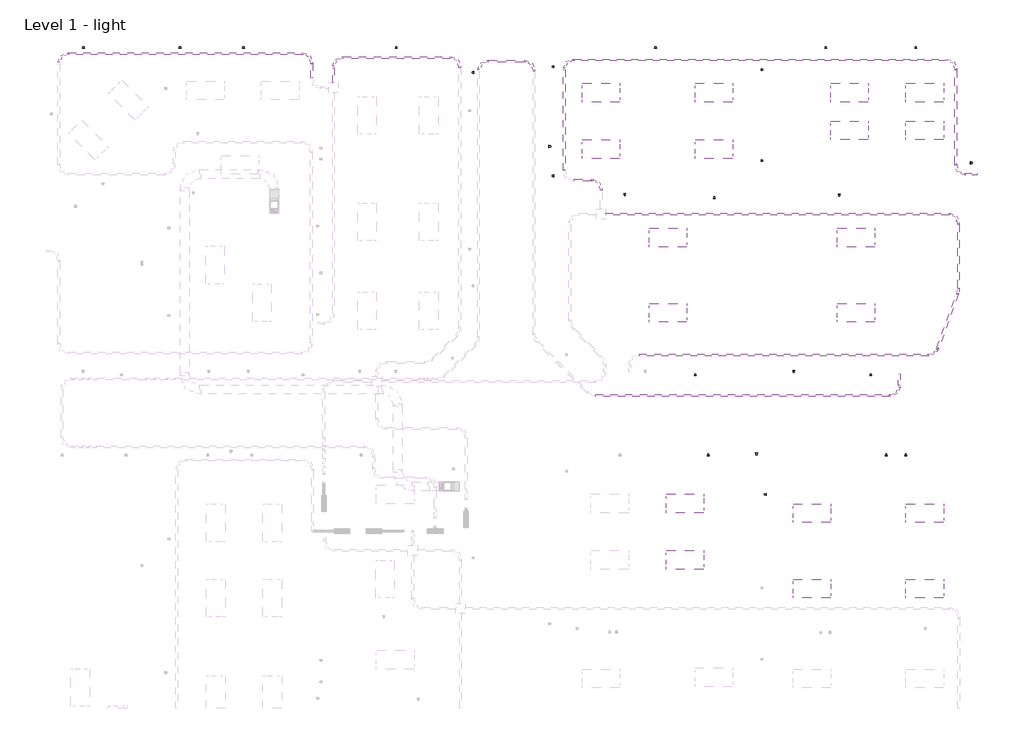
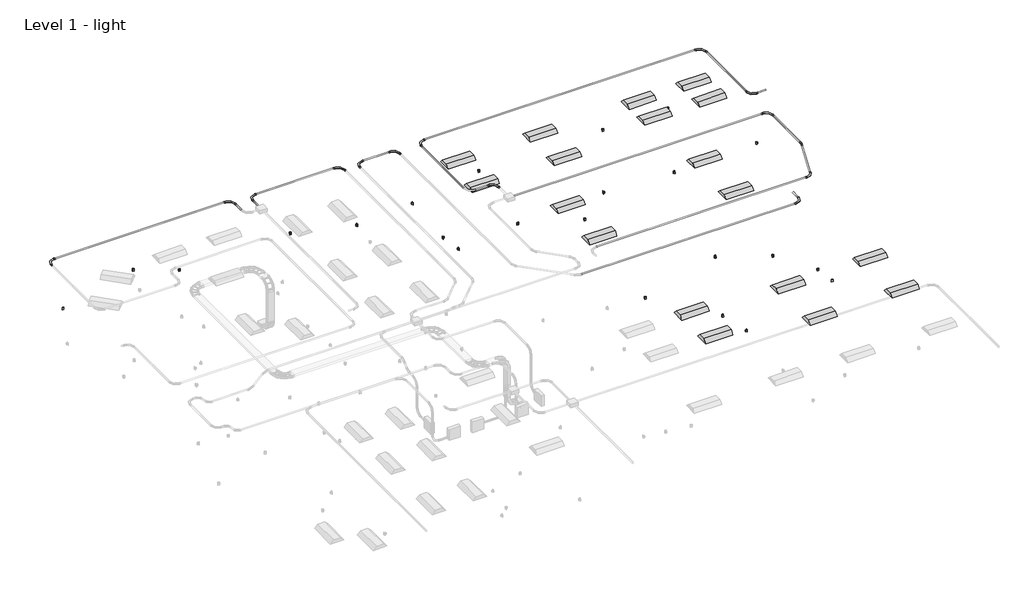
# One storey, part 5 of 5: 19 proxies, 18 light fixtures, 16 cable carrier segments, 14 cable carrier fittings, 6 switching devices.
"""IFC4 building model written with IfcOpenShell, lengths in millimetres."""

from ifc_helpers import new_model, si_unit, point, frame, frame_2d, origin, place, context, project, spatial, circle_curve, trimmed, segment, composite_curve, outline, extrude, transform, mapped, element, save
from components import m_duplex_receptacle_standard_10251bba, m_conduit_elbow_without_fittings_rnc_standard_89ecd00f, m_conduit_elbow_without_fittings_rnc_standard_5fbefaed, m_conduit_elbow_without_fittings_rnc_standard_47757ada, m_plain_recessed_lighting_fixture_c7d3eefa

model = new_model("IFC4")

# Units and contexts
model_context = context("Model", 3, world=origin())
ifc_project = project(units=[si_unit("LENGTHUNIT", "METRE", prefix="MILLI")], contexts=[model_context])

# Site, building, storey
site = spatial("IfcSite", under=ifc_project)
building = spatial("IfcBuilding", under=site)
storey = spatial("IfcBuildingStorey", under=building, Name="Level 1 - light", Elevation=0.0)

# Proxies
placement = place(None, origin())
m_duplex_receptacle_standard_shape = m_duplex_receptacle_standard_10251bba(model_context)
element("IfcBuildingElementProxy", 1, Name="M_Duplex Receptacle : Standard", ObjectType="M_Duplex Receptacle : Standard", at=placement, inside=storey, context=model_context, shape_type="MappedRepresentation", body=[
    mapped(m_duplex_receptacle_standard_shape, transform((-18883.4484689, 17268.6737109, 460.0), x_axis=(1.0, 0.0, 0.0), y_axis=(0.0, 0.0, 1.0), z_axis=(0.0, -1.0, 0.0))),
])
element("IfcBuildingElementProxy", 2, Name="M_Duplex Receptacle : Standard", ObjectType="M_Duplex Receptacle : Standard", at=placement, inside=storey, context=model_context, shape_type="MappedRepresentation", body=[
    mapped(m_duplex_receptacle_standard_shape, transform((-13697.9730488, 17268.6737109, 460.0), x_axis=(1.0, 0.0, 0.0), y_axis=(0.0, 0.0, 1.0), z_axis=(0.0, -1.0, 0.0))),
])
element("IfcBuildingElementProxy", 3, Name="M_Duplex Receptacle : Standard", ObjectType="M_Duplex Receptacle : Standard", at=placement, inside=storey, context=model_context, shape_type="MappedRepresentation", body=[
    mapped(m_duplex_receptacle_standard_shape, transform((-8747.9514996, 17268.6737109, 460.0), x_axis=(1.0, 0.0, 0.0), y_axis=(0.0, 0.0, 1.0), z_axis=(0.0, -1.0, 0.0))),
])
element("IfcBuildingElementProxy", 4, Name="M_Duplex Receptacle : Standard", ObjectType="M_Duplex Receptacle : Standard", at=placement, inside=storey, context=model_context, shape_type="MappedRepresentation", body=[
    mapped(m_duplex_receptacle_standard_shape, transform((-3642.762755, 16663.2148423, 460.0), x_axis=(0.0, 1.0, 0.0), y_axis=(0.0, 0.0, 1.0), z_axis=(1.0, 0.0, 0.0))),
])
element("IfcBuildingElementProxy", 5, Name="M_Duplex Receptacle : Standard", ObjectType="M_Duplex Receptacle : Standard", at=placement, inside=storey, context=model_context, shape_type="MappedRepresentation", body=[
    mapped(m_duplex_receptacle_standard_shape, transform((-3642.762755, 13128.6630075, 460.0), x_axis=(0.0, 1.0, 0.0), y_axis=(0.0, 0.0, 1.0), z_axis=(1.0, 0.0, 0.0))),
])
element("IfcBuildingElementProxy", 6, Name="M_Duplex Receptacle : Standard", ObjectType="M_Duplex Receptacle : Standard", at=placement, inside=storey, context=model_context, shape_type="MappedRepresentation", body=[
    mapped(m_duplex_receptacle_standard_shape, transform((3085.062245, 16565.4839381, 460.0), x_axis=(0.0, -1.0, 0.0), y_axis=(0.0, 0.0, 1.0), z_axis=(-1.0, 0.0, 0.0))),
])
element("IfcBuildingElementProxy", 7, Name="M_Duplex Receptacle : Standard", ObjectType="M_Duplex Receptacle : Standard", at=placement, inside=storey, context=model_context, shape_type="MappedRepresentation", body=[
    mapped(m_duplex_receptacle_standard_shape, transform((3085.062245, 13623.5652215, 460.0), x_axis=(0.0, -1.0, 0.0), y_axis=(0.0, 0.0, 1.0), z_axis=(-1.0, 0.0, 0.0))),
])
element("IfcBuildingElementProxy", 8, Name="M_Duplex Receptacle : Standard", ObjectType="M_Duplex Receptacle : Standard", at=placement, inside=storey, context=model_context, shape_type="MappedRepresentation", body=[
    mapped(m_duplex_receptacle_standard_shape, transform((-341.6544402, 17268.6737109, 460.0), x_axis=(1.0, 0.0, 0.0), y_axis=(0.0, 0.0, 1.0), z_axis=(0.0, -1.0, 0.0))),
])
element("IfcBuildingElementProxy", 9, Name="M_Duplex Receptacle : Standard", ObjectType="M_Duplex Receptacle : Standard", at=placement, inside=storey, context=model_context, shape_type="MappedRepresentation", body=[
    mapped(m_duplex_receptacle_standard_shape, transform((1557.1056988, 12391.8737109, 460.0), x_axis=(1.0, 0.0, 0.0), y_axis=(0.0, 0.0, 1.0), z_axis=(0.0, -1.0, 0.0))),
])
element("IfcBuildingElementProxy", 10, Name="M_Duplex Receptacle : Standard", ObjectType="M_Duplex Receptacle : Standard", at=placement, inside=storey, context=model_context, shape_type="MappedRepresentation", body=[
    mapped(m_duplex_receptacle_standard_shape, transform((9870.037245, 13546.3517893, 460.0), x_axis=(0.0, -1.0, 0.0), y_axis=(0.0, 0.0, 1.0), z_axis=(-1.0, 0.0, 0.0))),
])
element("IfcBuildingElementProxy", 11, Name="M_Duplex Receptacle : Standard", ObjectType="M_Duplex Receptacle : Standard", at=placement, inside=storey, context=model_context, shape_type="MappedRepresentation", body=[
    mapped(m_duplex_receptacle_standard_shape, transform((5177.5437232, 17268.6737109, 460.0), x_axis=(1.0, 0.0, 0.0), y_axis=(0.0, 0.0, 1.0), z_axis=(0.0, -1.0, 0.0))),
])
element("IfcBuildingElementProxy", 12, Name="M_Duplex Receptacle : Standard", ObjectType="M_Duplex Receptacle : Standard", at=placement, inside=storey, context=model_context, shape_type="MappedRepresentation", body=[
    mapped(m_duplex_receptacle_standard_shape, transform((8088.1217514, 17268.6737109, 460.0), x_axis=(1.0, 0.0, 0.0), y_axis=(0.0, 0.0, 1.0), z_axis=(0.0, -1.0, 0.0))),
])
element("IfcBuildingElementProxy", 13, Name="M_Duplex Receptacle : Standard", ObjectType="M_Duplex Receptacle : Standard", at=placement, inside=storey, context=model_context, shape_type="MappedRepresentation", body=[
    mapped(m_duplex_receptacle_standard_shape, transform((941.5579116, 6648.2987109, 460.0), x_axis=(1.0, 0.0, 0.0), y_axis=(0.0, 0.0, 1.0), z_axis=(0.0, -1.0, 0.0))),
])
element("IfcBuildingElementProxy", 14, Name="M_Duplex Receptacle : Standard", ObjectType="M_Duplex Receptacle : Standard", at=placement, inside=storey, context=model_context, shape_type="MappedRepresentation", body=[
    mapped(m_duplex_receptacle_standard_shape, transform((6632.9333726, 6648.2987109, 460.0), x_axis=(1.0, 0.0, 0.0), y_axis=(0.0, 0.0, 1.0), z_axis=(0.0, -1.0, 0.0))),
])
element("IfcBuildingElementProxy", 15, Name="M_Duplex Receptacle : Standard", ObjectType="M_Duplex Receptacle : Standard", at=placement, inside=storey, context=model_context, shape_type="MappedRepresentation", body=[
    mapped(m_duplex_receptacle_standard_shape, transform((2933.539323, 4132.1112109, 460.0), x_axis=(-1.0, 0.0, 0.0), y_axis=(0.0, 0.0, 1.0), z_axis=(0.0, 1.0, 0.0))),
])
element("IfcBuildingElementProxy", 16, Name="M_Duplex Receptacle : Standard", ObjectType="M_Duplex Receptacle : Standard", at=placement, inside=storey, context=model_context, shape_type="MappedRepresentation", body=[
    mapped(m_duplex_receptacle_standard_shape, transform((-3798.337755, 14084.2554795, 460.0), x_axis=(0.0, -1.0, 0.0), y_axis=(0.0, 0.0, 1.0), z_axis=(-1.0, 0.0, 0.0))),
])
element("IfcBuildingElementProxy", 17, Name="M_Duplex Receptacle : Standard", ObjectType="M_Duplex Receptacle : Standard", at=placement, inside=storey, context=model_context, shape_type="MappedRepresentation", body=[
    mapped(m_duplex_receptacle_standard_shape, transform((-6236.737755, 16481.9915283, 460.0), x_axis=(0.0, 1.0, 0.0), y_axis=(0.0, 0.0, 1.0), z_axis=(1.0, 0.0, 0.0))),
])
element("IfcBuildingElementProxy", 18, Name="M_Duplex Receptacle : Standard", ObjectType="M_Duplex Receptacle : Standard", at=placement, inside=storey, context=model_context, shape_type="MappedRepresentation", body=[
    mapped(m_duplex_receptacle_standard_shape, transform((7770.7478687, 4054.3237109, 460.0), x_axis=(1.0, 0.0, 0.0), y_axis=(0.0, 0.0, 1.0), z_axis=(0.0, -1.0, 0.0))),
])
element("IfcBuildingElementProxy", 19, Name="M_Duplex Receptacle : Standard", ObjectType="M_Duplex Receptacle : Standard", at=placement, inside=storey, context=model_context, shape_type="MappedRepresentation", body=[
    mapped(m_duplex_receptacle_standard_shape, transform((3240.637245, 2794.938039, 460.0), x_axis=(0.0, 1.0, 0.0), y_axis=(0.0, 0.0, 1.0), z_axis=(1.0, 0.0, 0.0))),
])

# Cable carrier fittings
m_conduit_elbow_without_fittings_rnc_standard_shape = m_conduit_elbow_without_fittings_rnc_standard_89ecd00f(model_context)
element("IfcCableCarrierFitting", 20, ObjectType="M_Conduit Elbow - without Fittings - RNC : Standard", at=placement, inside=storey, context=model_context, shape_type="MappedRepresentation", body=[
    mapped(m_conduit_elbow_without_fittings_rnc_standard_shape, transform((-6682.4372396, 16957.7027917, 3100.0), x_axis=(0.0, 1.0, 0.0), y_axis=(-1.0, 0.0, 0.0), z_axis=(0.0, 0.0, 1.0))),
])
element("IfcCableCarrierFitting", 21, ObjectType="M_Conduit Elbow - without Fittings - RNC : Standard", at=placement, inside=storey, context=model_context, shape_type="MappedRepresentation", body=[
    mapped(m_conduit_elbow_without_fittings_rnc_standard_shape, transform((-10782.4372396, 16957.7027917, 3100.0), x_axis=(-1.0, 0.0, 0.0), y_axis=(0.0, -1.0, 0.0), z_axis=(0.0, 0.0, 1.0))),
])
element("IfcCableCarrierFitting", 22, ObjectType="M_Conduit Elbow - without Fittings - RNC : Standard", at=placement, inside=storey, context=model_context, shape_type="MappedRepresentation", body=[
    mapped(m_conduit_elbow_without_fittings_rnc_standard_shape, transform((9477.3291501, 11884.7825021, 3100.0), x_axis=(0.0, 1.0, 0.0), y_axis=(-1.0, 0.0, 0.0), z_axis=(0.0, 0.0, 1.0))),
])
element("IfcCableCarrierFitting", 23, ObjectType="M_Conduit Elbow - without Fittings - RNC : Standard", at=placement, inside=storey, context=model_context, shape_type="MappedRepresentation", body=[
    mapped(m_conduit_elbow_without_fittings_rnc_standard_shape, transform((-2106.5826874, 12984.7825021, 3100.0), x_axis=(0.0, 1.0, 0.0), y_axis=(-1.0, 0.0, 0.0), z_axis=(0.0, 0.0, 1.0))),
])
element("IfcCableCarrierFitting", 24, ObjectType="M_Conduit Elbow - without Fittings - RNC : Standard", at=placement, inside=storey, context=model_context, shape_type="MappedRepresentation", body=[
    mapped(m_conduit_elbow_without_fittings_rnc_standard_shape, transform((-3306.5826874, 16884.7825021, 3100.0), x_axis=(-1.0, 0.0, 0.0), y_axis=(0.0, -1.0, 0.0), z_axis=(0.0, 0.0, 1.0))),
])
element("IfcCableCarrierFitting", 25, ObjectType="M_Conduit Elbow - without Fittings - RNC : Standard", at=placement, inside=storey, context=model_context, shape_type="MappedRepresentation", body=[
    mapped(m_conduit_elbow_without_fittings_rnc_standard_shape, transform((9393.4173126, 16884.7825021, 3100.0), x_axis=(0.0, 1.0, 0.0), y_axis=(-1.0, 0.0, 0.0), z_axis=(0.0, 0.0, 1.0))),
])
element("IfcCableCarrierFitting", 26, ObjectType="M_Conduit Elbow - without Fittings - RNC : Standard", at=placement, inside=storey, context=model_context, shape_type="MappedRepresentation", body=[
    mapped(m_conduit_elbow_without_fittings_rnc_standard_shape, transform((9393.4173126, 13184.7825021, 3100.0), x_axis=(0.0, -1.0, 0.0), y_axis=(1.0, 0.0, 0.0), z_axis=(0.0, 0.0, 1.0))),
])
element("IfcCableCarrierFitting", 27, ObjectType="M_Conduit Elbow - without Fittings - RNC : Standard", at=placement, inside=storey, context=model_context, shape_type="MappedRepresentation", body=[
    mapped(m_conduit_elbow_without_fittings_rnc_standard_shape, transform((-11482.4372396, 17083.2800092, 3100.0), x_axis=(0.0, 1.0, 0.0), y_axis=(-1.0, 0.0, 0.0), z_axis=(0.0, 0.0, 1.0))),
])
element("IfcCableCarrierFitting", 28, ObjectType="M_Conduit Elbow - without Fittings - RNC : Standard", at=placement, inside=storey, context=model_context, shape_type="MappedRepresentation", body=[
    mapped(m_conduit_elbow_without_fittings_rnc_standard_shape, transform((-19682.4372396, 17083.2800092, 3100.0), x_axis=(-1.0, 0.0, 0.0), y_axis=(0.0, -1.0, 0.0), z_axis=(0.0, 0.0, 1.0))),
])
element("IfcCableCarrierFitting", 29, ObjectType="M_Conduit Elbow - without Fittings - RNC : Standard", at=placement, inside=storey, context=model_context, shape_type="MappedRepresentation", body=[
    mapped(m_conduit_elbow_without_fittings_rnc_standard_shape, transform((-6079.718472, 16840.1344224, 3100.0), x_axis=(-1.0, 0.0, 0.0), y_axis=(0.0, -1.0, 0.0), z_axis=(0.0, 0.0, 1.0))),
])
element("IfcCableCarrierFitting", 30, ObjectType="M_Conduit Elbow - without Fittings - RNC : Standard", at=placement, inside=storey, context=model_context, shape_type="MappedRepresentation", body=[
    mapped(m_conduit_elbow_without_fittings_rnc_standard_shape, transform((-4279.718472, 16840.1344224, 3100.0), x_axis=(0.0, 1.0, 0.0), y_axis=(-1.0, 0.0, 0.0), z_axis=(0.0, 0.0, 1.0))),
])
element("IfcCableCarrierFitting", 31, ObjectType="M_Conduit Elbow - without Fittings - RNC : Standard", at=placement, inside=storey, context=model_context, shape_type="MappedRepresentation", body=[
    mapped(m_conduit_elbow_without_fittings_rnc_standard_shape, transform((7558.7591591, 6001.6567913, 3100.0), x_axis=(1.0, 0.0, 0.0), y_axis=(0.0, 1.0, 0.0), z_axis=(0.0, 0.0, 1.0))),
])
m_conduit_elbow_without_fittings_rnc_standard_2_shape = m_conduit_elbow_without_fittings_rnc_standard_5fbefaed(model_context)
element("IfcCableCarrierFitting", 32, ObjectType="M_Conduit Elbow - without Fittings - RNC : Standard", at=placement, inside=storey, context=model_context, shape_type="MappedRepresentation", body=[
    mapped(m_conduit_elbow_without_fittings_rnc_standard_2_shape, transform((9477.3291501, 9384.7825021, 3100.0), x_axis=(0.34202014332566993, 0.939692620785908, 0.0), y_axis=(-0.939692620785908, 0.34202014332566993, 0.0), z_axis=(0.0, 0.0, 1.0))),
])
m_conduit_elbow_without_fittings_rnc_standard_3_shape = m_conduit_elbow_without_fittings_rnc_standard_47757ada(model_context)
element("IfcCableCarrierFitting", 33, ObjectType="M_Conduit Elbow - without Fittings - RNC : Standard", at=placement, inside=storey, context=model_context, shape_type="MappedRepresentation", body=[
    mapped(m_conduit_elbow_without_fittings_rnc_standard_3_shape, transform((8724.8848348, 7317.4587363, 3100.0), x_axis=(1.0, 0.0, 0.0), y_axis=(0.0, 1.0, 0.0), z_axis=(0.0, 0.0, 1.0))),
])

# Cable carrier segments
element("IfcCableCarrierSegment", 34, ObjectType="Rigid Nonmetallic Conduit (RNC Sch 40)", at=placement, inside=storey, context=model_context, shape_type="SweptSolid", body=[
    extrude(outline(composite_curve([segment(trimmed(circle_curve(frame_2d((16957.7027917, 3100.0)), 30.165), [point((16987.8677917, 3100.0))], [point((16957.7027917, 3069.835))], False, "CARTESIAN"), True, "CONTINUOUS"), segment(trimmed(circle_curve(frame_2d((16957.7027917, 3100.0)), 30.165), [point((16957.7027917, 3069.835))], [point((16927.5377917, 3100.0))], False, "CARTESIAN"), True, "CONTINUOUS"), segment(trimmed(circle_curve(frame_2d((16957.7027917, 3100.0)), 30.165), [point((16927.5377917, 3100.0))], [point((16957.7027917, 3130.165))], False, "CARTESIAN"), True, "CONTINUOUS"), segment(trimmed(circle_curve(frame_2d((16957.7027917, 3100.0)), 30.165), [point((16957.7027917, 3130.165))], [point((16987.8677917, 3100.0))], False, "CARTESIAN"), True, "CONTINUOUS")], self_intersect=False)), frame((-10460.1772396, 0.0, 0.0), z_axis=(1.0, 0.0, 0.0), x_axis=(0.0, 1.0, 0.0)), (0.0, 0.0, 1.0), 3455.48),
])
element("IfcCableCarrierSegment", 35, ObjectType="Rigid Nonmetallic Conduit (RNC Sch 40)", at=placement, inside=storey, context=model_context, shape_type="SweptSolid", body=[
    extrude(outline(composite_curve([segment(trimmed(circle_curve(frame_2d((3100.0, 9477.3291501)), 30.165), [point((3100.0, 9447.1641501))], [point((3069.835, 9477.3291501))], False, "CARTESIAN"), True, "CONTINUOUS"), segment(trimmed(circle_curve(frame_2d((3100.0, 9477.3291501)), 30.165), [point((3069.835, 9477.3291501))], [point((3100.0, 9507.4941501))], False, "CARTESIAN"), True, "CONTINUOUS"), segment(trimmed(circle_curve(frame_2d((3100.0, 9477.3291501)), 30.165), [point((3100.0, 9507.4941501))], [point((3130.165, 9477.3291501))], False, "CARTESIAN"), True, "CONTINUOUS"), segment(trimmed(circle_curve(frame_2d((3100.0, 9477.3291501)), 30.165), [point((3130.165, 9477.3291501))], [point((3100.0, 9447.1641501))], False, "CARTESIAN"), True, "CONTINUOUS")], self_intersect=False)), frame((0.0, 9483.4482242, 0.0), z_axis=(0.0, 1.0, 0.0), x_axis=(0.0, 0.0, 1.0)), (0.0, 0.0, 1.0), 2079.0742778),
])
element("IfcCableCarrierSegment", 36, ObjectType="Rigid Nonmetallic Conduit (RNC Sch 40)", at=placement, inside=storey, context=model_context, shape_type="SweptSolid", body=[
    extrude(outline(composite_curve([segment(trimmed(circle_curve(frame_2d((0.0, -30.165)), 30.165), [point((-30.165, -30.165))], [point((0.0, 0.0))], False, "CARTESIAN"), True, "CONTINUOUS"), segment(trimmed(circle_curve(frame_2d((0.0, -30.165)), 30.165), [point((0.0, 0.0))], [point((30.165, -30.165))], False, "CARTESIAN"), True, "CONTINUOUS"), segment(trimmed(circle_curve(frame_2d((0.0, -30.165)), 30.165), [point((30.165, -30.165))], [point((0.0, -60.33))], False, "CARTESIAN"), True, "CONTINUOUS"), segment(trimmed(circle_curve(frame_2d((0.0, -30.165)), 30.165), [point((0.0, -60.33))], [point((-30.165, -30.165))], False, "CARTESIAN"), True, "CONTINUOUS")], self_intersect=False)), frame((8807.2700786, 7543.8103334, 3069.835), z_axis=(0.3420201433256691, 0.9396926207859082, 0.0), x_axis=(0.9396926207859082, -0.3420201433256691, 0.0)), (0.0, 0.0, 1.0), 1860.4559395),
])
element("IfcCableCarrierSegment", 37, ObjectType="Rigid Nonmetallic Conduit (RNC Sch 40)", at=placement, inside=storey, context=model_context, shape_type="SweptSolid", body=[
    extrude(outline(composite_curve([segment(trimmed(circle_curve(frame_2d((7317.4587363, 3100.0)), 30.165), [point((7347.6237363, 3100.0))], [point((7317.4587363, 3069.835))], False, "CARTESIAN"), True, "CONTINUOUS"), segment(trimmed(circle_curve(frame_2d((7317.4587363, 3100.0)), 30.165), [point((7317.4587363, 3069.835))], [point((7287.2937363, 3100.0))], False, "CARTESIAN"), True, "CONTINUOUS"), segment(trimmed(circle_curve(frame_2d((7317.4587363, 3100.0)), 30.165), [point((7287.2937363, 3100.0))], [point((7317.4587363, 3130.165))], False, "CARTESIAN"), True, "CONTINUOUS"), segment(trimmed(circle_curve(frame_2d((7317.4587363, 3100.0)), 30.165), [point((7317.4587363, 3130.165))], [point((7347.6237363, 3100.0))], False, "CARTESIAN"), True, "CONTINUOUS")], self_intersect=False)), frame((-852.8551652, 0.0, 0.0), z_axis=(1.0, 0.0, 0.0), x_axis=(0.0, 1.0, 0.0)), (0.0, 0.0, 1.0), 9336.8616617),
])
element("IfcCableCarrierSegment", 38, ObjectType="Rigid Nonmetallic Conduit (RNC Sch 40)", at=placement, inside=storey, context=model_context, shape_type="SweptSolid", body=[
    extrude(outline(composite_curve([segment(trimmed(circle_curve(frame_2d((11884.7825021, 3100.0)), 30.165), [point((11914.9475021, 3100.0))], [point((11884.7825021, 3069.835))], False, "CARTESIAN"), True, "CONTINUOUS"), segment(trimmed(circle_curve(frame_2d((11884.7825021, 3100.0)), 30.165), [point((11884.7825021, 3069.835))], [point((11854.6175021, 3100.0))], False, "CARTESIAN"), True, "CONTINUOUS"), segment(trimmed(circle_curve(frame_2d((11884.7825021, 3100.0)), 30.165), [point((11854.6175021, 3100.0))], [point((11884.7825021, 3130.165))], False, "CARTESIAN"), True, "CONTINUOUS"), segment(trimmed(circle_curve(frame_2d((11884.7825021, 3100.0)), 30.165), [point((11884.7825021, 3130.165))], [point((11914.9475021, 3100.0))], False, "CARTESIAN"), True, "CONTINUOUS")], self_intersect=False)), frame((-1947.5826874, 0.0, 0.0), z_axis=(1.0, 0.0, 0.0), x_axis=(0.0, 1.0, 0.0)), (0.0, 0.0, 1.0), 11102.6518375),
])
element("IfcCableCarrierSegment", 39, ObjectType="Rigid Nonmetallic Conduit (RNC Sch 40)", at=placement, inside=storey, context=model_context, shape_type="SweptSolid", body=[
    extrude(outline(composite_curve([segment(trimmed(circle_curve(frame_2d((12984.7825021, 3100.0)), 30.165), [point((13014.9475021, 3100.0))], [point((12984.7825021, 3069.835))], False, "CARTESIAN"), True, "CONTINUOUS"), segment(trimmed(circle_curve(frame_2d((12984.7825021, 3100.0)), 30.165), [point((12984.7825021, 3069.835))], [point((12954.6175021, 3100.0))], False, "CARTESIAN"), True, "CONTINUOUS"), segment(trimmed(circle_curve(frame_2d((12984.7825021, 3100.0)), 30.165), [point((12954.6175021, 3100.0))], [point((12984.7825021, 3130.165))], False, "CARTESIAN"), True, "CONTINUOUS"), segment(trimmed(circle_curve(frame_2d((12984.7825021, 3100.0)), 30.165), [point((12984.7825021, 3130.165))], [point((13014.9475021, 3100.0))], False, "CARTESIAN"), True, "CONTINUOUS")], self_intersect=False)), frame((-2984.3226874, 0.0, 0.0), z_axis=(1.0, 0.0, 0.0), x_axis=(0.0, 1.0, 0.0)), (0.0, 0.0, 1.0), 555.48),
])
element("IfcCableCarrierSegment", 40, ObjectType="Rigid Nonmetallic Conduit (RNC Sch 40)", at=placement, inside=storey, context=model_context, shape_type="SweptSolid", body=[
    extrude(outline(composite_curve([segment(trimmed(circle_curve(frame_2d((3100.0, -3306.5826874)), 30.165), [point((3100.0, -3276.4176874))], [point((3130.165, -3306.5826874))], False, "CARTESIAN"), True, "CONTINUOUS"), segment(trimmed(circle_curve(frame_2d((3100.0, -3306.5826874)), 30.165), [point((3130.165, -3306.5826874))], [point((3100.0, -3336.7476874))], False, "CARTESIAN"), True, "CONTINUOUS"), segment(trimmed(circle_curve(frame_2d((3100.0, -3306.5826874)), 30.165), [point((3100.0, -3336.7476874))], [point((3069.835, -3306.5826874))], False, "CARTESIAN"), True, "CONTINUOUS"), segment(trimmed(circle_curve(frame_2d((3100.0, -3306.5826874)), 30.165), [point((3069.835, -3306.5826874))], [point((3100.0, -3276.4176874))], False, "CARTESIAN"), True, "CONTINUOUS")], self_intersect=False)), frame((0.0, 13307.0425021, 0.0), z_axis=(0.0, 1.0, 0.0), x_axis=(0.0, 0.0, 1.0)), (0.0, 0.0, 1.0), 3255.48),
])
element("IfcCableCarrierSegment", 41, ObjectType="Rigid Nonmetallic Conduit (RNC Sch 40)", at=placement, inside=storey, context=model_context, shape_type="SweptSolid", body=[
    extrude(outline(composite_curve([segment(trimmed(circle_curve(frame_2d((16884.7825021, 3100.0)), 30.165), [point((16854.6175021, 3100.0))], [point((16884.7825021, 3130.165))], False, "CARTESIAN"), True, "CONTINUOUS"), segment(trimmed(circle_curve(frame_2d((16884.7825021, 3100.0)), 30.165), [point((16884.7825021, 3130.165))], [point((16914.9475021, 3100.0))], False, "CARTESIAN"), True, "CONTINUOUS"), segment(trimmed(circle_curve(frame_2d((16884.7825021, 3100.0)), 30.165), [point((16914.9475021, 3100.0))], [point((16884.7825021, 3069.835))], False, "CARTESIAN"), True, "CONTINUOUS"), segment(trimmed(circle_curve(frame_2d((16884.7825021, 3100.0)), 30.165), [point((16884.7825021, 3069.835))], [point((16854.6175021, 3100.0))], False, "CARTESIAN"), True, "CONTINUOUS")], self_intersect=False)), frame((-2984.3226874, 0.0, 0.0), z_axis=(1.0, 0.0, 0.0), x_axis=(0.0, 1.0, 0.0)), (0.0, 0.0, 1.0), 12055.48),
])
element("IfcCableCarrierSegment", 42, ObjectType="Rigid Nonmetallic Conduit (RNC Sch 40)", at=placement, inside=storey, context=model_context, shape_type="SweptSolid", body=[
    extrude(outline(composite_curve([segment(trimmed(circle_curve(frame_2d((3100.0, 9393.4173126)), 30.165), [point((3100.0, 9363.2523126))], [point((3069.835, 9393.4173126))], False, "CARTESIAN"), True, "CONTINUOUS"), segment(trimmed(circle_curve(frame_2d((3100.0, 9393.4173126)), 30.165), [point((3069.835, 9393.4173126))], [point((3100.0, 9423.5823126))], False, "CARTESIAN"), True, "CONTINUOUS"), segment(trimmed(circle_curve(frame_2d((3100.0, 9393.4173126)), 30.165), [point((3100.0, 9423.5823126))], [point((3130.165, 9393.4173126))], False, "CARTESIAN"), True, "CONTINUOUS"), segment(trimmed(circle_curve(frame_2d((3100.0, 9393.4173126)), 30.165), [point((3130.165, 9393.4173126))], [point((3100.0, 9363.2523126))], False, "CARTESIAN"), True, "CONTINUOUS")], self_intersect=False)), frame((0.0, 13507.0425021, 0.0), z_axis=(0.0, 1.0, 0.0), x_axis=(0.0, 0.0, 1.0)), (0.0, 0.0, 1.0), 3055.48),
])
element("IfcCableCarrierSegment", 43, ObjectType="Rigid Nonmetallic Conduit (RNC Sch 40)", at=placement, inside=storey, context=model_context, shape_type="SweptSolid", body=[
    extrude(outline(composite_curve([segment(trimmed(circle_curve(frame_2d((13184.7825021, 3100.0)), 30.165), [point((13154.6175021, 3100.0))], [point((13184.7825021, 3130.165))], False, "CARTESIAN"), True, "CONTINUOUS"), segment(trimmed(circle_curve(frame_2d((13184.7825021, 3100.0)), 30.165), [point((13184.7825021, 3130.165))], [point((13214.9475021, 3100.0))], False, "CARTESIAN"), True, "CONTINUOUS"), segment(trimmed(circle_curve(frame_2d((13184.7825021, 3100.0)), 30.165), [point((13214.9475021, 3100.0))], [point((13184.7825021, 3069.835))], False, "CARTESIAN"), True, "CONTINUOUS"), segment(trimmed(circle_curve(frame_2d((13184.7825021, 3100.0)), 30.165), [point((13184.7825021, 3069.835))], [point((13154.6175021, 3100.0))], False, "CARTESIAN"), True, "CONTINUOUS")], self_intersect=False)), frame((9715.6773126, 0.0, 0.0), z_axis=(1.0, 0.0, 0.0), x_axis=(0.0, 1.0, 0.0)), (0.0, 0.0, 1.0), 377.74),
])
element("IfcCableCarrierSegment", 44, ObjectType="Rigid Nonmetallic Conduit (RNC Sch 40)", at=placement, inside=storey, context=model_context, shape_type="SweptSolid", body=[
    extrude(outline(composite_curve([segment(trimmed(circle_curve(frame_2d((3100.0, -10782.4372396)), 30.165), [point((3100.0, -10812.6022396))], [point((3069.835, -10782.4372396))], False, "CARTESIAN"), True, "CONTINUOUS"), segment(trimmed(circle_curve(frame_2d((3100.0, -10782.4372396)), 30.165), [point((3069.835, -10782.4372396))], [point((3100.0, -10752.2722396))], False, "CARTESIAN"), True, "CONTINUOUS"), segment(trimmed(circle_curve(frame_2d((3100.0, -10782.4372396)), 30.165), [point((3100.0, -10752.2722396))], [point((3130.165, -10782.4372396))], False, "CARTESIAN"), True, "CONTINUOUS"), segment(trimmed(circle_curve(frame_2d((3100.0, -10782.4372396)), 30.165), [point((3130.165, -10782.4372396))], [point((3100.0, -10812.6022396))], False, "CARTESIAN"), True, "CONTINUOUS")], self_intersect=False)), frame((0.0, 16142.2800092, 0.0), z_axis=(0.0, 1.0, 0.0), x_axis=(0.0, 0.0, 1.0)), (0.0, 0.0, 1.0), 493.1627824),
])
element("IfcCableCarrierSegment", 45, ObjectType="Rigid Nonmetallic Conduit (RNC Sch 40)", at=placement, inside=storey, context=model_context, shape_type="SweptSolid", body=[
    extrude(outline(composite_curve([segment(trimmed(circle_curve(frame_2d((3100.0, -11482.4372396)), 30.165), [point((3100.0, -11452.2722396))], [point((3130.165, -11482.4372396))], False, "CARTESIAN"), True, "CONTINUOUS"), segment(trimmed(circle_curve(frame_2d((3100.0, -11482.4372396)), 30.165), [point((3130.165, -11482.4372396))], [point((3100.0, -11512.6022396))], False, "CARTESIAN"), True, "CONTINUOUS"), segment(trimmed(circle_curve(frame_2d((3100.0, -11482.4372396)), 30.165), [point((3100.0, -11512.6022396))], [point((3069.835, -11482.4372396))], False, "CARTESIAN"), True, "CONTINUOUS"), segment(trimmed(circle_curve(frame_2d((3100.0, -11482.4372396)), 30.165), [point((3069.835, -11482.4372396))], [point((3100.0, -11452.2722396))], False, "CARTESIAN"), True, "CONTINUOUS")], self_intersect=False)), frame((0.0, 16305.5400092, 0.0), z_axis=(0.0, 1.0, 0.0), x_axis=(0.0, 0.0, 1.0)), (0.0, 0.0, 1.0), 455.48),
])
element("IfcCableCarrierSegment", 46, ObjectType="Rigid Nonmetallic Conduit (RNC Sch 40)", at=placement, inside=storey, context=model_context, shape_type="SweptSolid", body=[
    extrude(outline(composite_curve([segment(trimmed(circle_curve(frame_2d((17083.2800092, 3100.0)), 30.165), [point((17113.4450092, 3100.0))], [point((17083.2800092, 3069.835))], False, "CARTESIAN"), True, "CONTINUOUS"), segment(trimmed(circle_curve(frame_2d((17083.2800092, 3100.0)), 30.165), [point((17083.2800092, 3069.835))], [point((17053.1150092, 3100.0))], False, "CARTESIAN"), True, "CONTINUOUS"), segment(trimmed(circle_curve(frame_2d((17083.2800092, 3100.0)), 30.165), [point((17053.1150092, 3100.0))], [point((17083.2800092, 3130.165))], False, "CARTESIAN"), True, "CONTINUOUS"), segment(trimmed(circle_curve(frame_2d((17083.2800092, 3100.0)), 30.165), [point((17083.2800092, 3130.165))], [point((17113.4450092, 3100.0))], False, "CARTESIAN"), True, "CONTINUOUS")], self_intersect=False)), frame((-19360.1772396, 0.0, 0.0), z_axis=(1.0, 0.0, 0.0), x_axis=(0.0, 1.0, 0.0)), (0.0, 0.0, 1.0), 7555.48),
])
element("IfcCableCarrierSegment", 47, ObjectType="Rigid Nonmetallic Conduit (RNC Sch 40)", at=placement, inside=storey, context=model_context, shape_type="SweptSolid", body=[
    extrude(outline(composite_curve([segment(trimmed(circle_curve(frame_2d((16840.1344224, 3100.0)), 30.165), [point((16809.9694224, 3100.0))], [point((16840.1344224, 3130.165))], False, "CARTESIAN"), True, "CONTINUOUS"), segment(trimmed(circle_curve(frame_2d((16840.1344224, 3100.0)), 30.165), [point((16840.1344224, 3130.165))], [point((16870.2994224, 3100.0))], False, "CARTESIAN"), True, "CONTINUOUS"), segment(trimmed(circle_curve(frame_2d((16840.1344224, 3100.0)), 30.165), [point((16870.2994224, 3100.0))], [point((16840.1344224, 3069.835))], False, "CARTESIAN"), True, "CONTINUOUS"), segment(trimmed(circle_curve(frame_2d((16840.1344224, 3100.0)), 30.165), [point((16840.1344224, 3069.835))], [point((16809.9694224, 3100.0))], False, "CARTESIAN"), True, "CONTINUOUS")], self_intersect=False)), frame((-5757.458472, 0.0, 0.0), z_axis=(1.0, 0.0, 0.0), x_axis=(0.0, 1.0, 0.0)), (0.0, 0.0, 1.0), 1155.48),
])
element("IfcCableCarrierSegment", 48, ObjectType="Rigid Nonmetallic Conduit (RNC Sch 40)", at=placement, inside=storey, context=model_context, shape_type="SweptSolid", body=[
    extrude(outline(composite_curve([segment(trimmed(circle_curve(frame_2d((6001.6567913, 3100.0)), 30.165), [point((5971.4917913, 3100.0))], [point((6001.6567913, 3130.165))], False, "CARTESIAN"), True, "CONTINUOUS"), segment(trimmed(circle_curve(frame_2d((6001.6567913, 3100.0)), 30.165), [point((6001.6567913, 3130.165))], [point((6031.8217913, 3100.0))], False, "CARTESIAN"), True, "CONTINUOUS"), segment(trimmed(circle_curve(frame_2d((6001.6567913, 3100.0)), 30.165), [point((6031.8217913, 3100.0))], [point((6001.6567913, 3069.835))], False, "CARTESIAN"), True, "CONTINUOUS"), segment(trimmed(circle_curve(frame_2d((6001.6567913, 3100.0)), 30.165), [point((6001.6567913, 3069.835))], [point((5971.4917913, 3100.0))], False, "CARTESIAN"), True, "CONTINUOUS")], self_intersect=False)), frame((-2277.9984273, 0.0, 0.0), z_axis=(1.0, 0.0, 0.0), x_axis=(0.0, 1.0, 0.0)), (0.0, 0.0, 1.0), 9514.4975864),
])
element("IfcCableCarrierSegment", 49, ObjectType="Rigid Nonmetallic Conduit (RNC Sch 40)", at=placement, inside=storey, context=model_context, shape_type="SweptSolid", body=[
    extrude(outline(composite_curve([segment(trimmed(circle_curve(frame_2d((3100.0, 7558.7591591)), 30.165), [point((3100.0, 7588.9241591))], [point((3130.165, 7558.7591591))], False, "CARTESIAN"), True, "CONTINUOUS"), segment(trimmed(circle_curve(frame_2d((3100.0, 7558.7591591)), 30.165), [point((3130.165, 7558.7591591))], [point((3100.0, 7528.5941591))], False, "CARTESIAN"), True, "CONTINUOUS"), segment(trimmed(circle_curve(frame_2d((3100.0, 7558.7591591)), 30.165), [point((3100.0, 7528.5941591))], [point((3069.835, 7558.7591591))], False, "CARTESIAN"), True, "CONTINUOUS"), segment(trimmed(circle_curve(frame_2d((3100.0, 7558.7591591)), 30.165), [point((3069.835, 7558.7591591))], [point((3100.0, 7588.9241591))], False, "CARTESIAN"), True, "CONTINUOUS")], self_intersect=False)), frame((0.0, 6323.9167913, 0.0), z_axis=(0.0, 1.0, 0.0), x_axis=(0.0, 0.0, 1.0)), (0.0, 0.0, 1.0), 377.74),
])

# Light fixtures
m_plain_recessed_lighting_fixture_shape = m_plain_recessed_lighting_fixture_c7d3eefa(model_context)
element("IfcLightFixture", 50, ObjectType="M_Plain Recessed Lighting Fixture : tubelight", at=placement, inside=storey, context=model_context, shape_type="MappedRepresentation", body=[
    mapped(m_plain_recessed_lighting_fixture_shape, transform((-1498.050255, 16127.2612109, 2438.4), x_axis=(-1.0, 0.0, 0.0), y_axis=(0.0, 1.0, 0.0), z_axis=(0.0, 0.0, -1.0))),
])
element("IfcLightFixture", 51, ObjectType="M_Plain Recessed Lighting Fixture : tubelight", at=placement, inside=storey, context=model_context, shape_type="MappedRepresentation", body=[
    mapped(m_plain_recessed_lighting_fixture_shape, transform((2159.549745, 16127.2612109, 2438.4), x_axis=(-1.0, 0.0, 0.0), y_axis=(0.0, 1.0, 0.0), z_axis=(0.0, 0.0, -1.0))),
])
element("IfcLightFixture", 52, ObjectType="M_Plain Recessed Lighting Fixture : tubelight", at=placement, inside=storey, context=model_context, shape_type="MappedRepresentation", body=[
    mapped(m_plain_recessed_lighting_fixture_shape, transform((2159.549745, 14298.4612109, 2438.4), x_axis=(-1.0, 0.0, 0.0), y_axis=(0.0, 1.0, 0.0), z_axis=(0.0, 0.0, -1.0))),
])
element("IfcLightFixture", 53, ObjectType="M_Plain Recessed Lighting Fixture : tubelight", at=placement, inside=storey, context=model_context, shape_type="MappedRepresentation", body=[
    mapped(m_plain_recessed_lighting_fixture_shape, transform((-1498.050255, 14298.4612109, 2438.4), x_axis=(-1.0, 0.0, 0.0), y_axis=(0.0, 1.0, 0.0), z_axis=(0.0, 0.0, -1.0))),
])
element("IfcLightFixture", 54, ObjectType="M_Plain Recessed Lighting Fixture : tubelight", at=placement, inside=storey, context=model_context, shape_type="MappedRepresentation", body=[
    mapped(m_plain_recessed_lighting_fixture_shape, transform((675.237245, 11426.6737109, 2438.4), x_axis=(-1.0, 0.0, 0.0), y_axis=(0.0, 1.0, 0.0), z_axis=(0.0, 0.0, -1.0))),
])
element("IfcLightFixture", 55, ObjectType="M_Plain Recessed Lighting Fixture : tubelight", at=placement, inside=storey, context=model_context, shape_type="MappedRepresentation", body=[
    mapped(m_plain_recessed_lighting_fixture_shape, transform((675.237245, 8988.2737109, 2438.4), x_axis=(-1.0, 0.0, 0.0), y_axis=(0.0, 1.0, 0.0), z_axis=(0.0, 0.0, -1.0))),
])
element("IfcLightFixture", 56, ObjectType="M_Plain Recessed Lighting Fixture : tubelight", at=placement, inside=storey, context=model_context, shape_type="MappedRepresentation", body=[
    mapped(m_plain_recessed_lighting_fixture_shape, transform((6771.237245, 11426.6737109, 2438.4), x_axis=(-1.0, 0.0, 0.0), y_axis=(0.0, 1.0, 0.0), z_axis=(0.0, 0.0, -1.0))),
])
element("IfcLightFixture", 57, ObjectType="M_Plain Recessed Lighting Fixture : tubelight", at=placement, inside=storey, context=model_context, shape_type="MappedRepresentation", body=[
    mapped(m_plain_recessed_lighting_fixture_shape, transform((6771.237245, 8988.2737109, 2438.4), x_axis=(-1.0, 0.0, 0.0), y_axis=(0.0, 1.0, 0.0), z_axis=(0.0, 0.0, -1.0))),
])
element("IfcLightFixture", 58, ObjectType="M_Plain Recessed Lighting Fixture : tubelight", at=placement, inside=storey, context=model_context, shape_type="MappedRepresentation", body=[
    mapped(m_plain_recessed_lighting_fixture_shape, transform((6555.337245, 16127.2612109, 2438.4), x_axis=(-1.0, 0.0, 0.0), y_axis=(0.0, 1.0, 0.0), z_axis=(0.0, 0.0, -1.0))),
])
element("IfcLightFixture", 59, ObjectType="M_Plain Recessed Lighting Fixture : tubelight", at=placement, inside=storey, context=model_context, shape_type="MappedRepresentation", body=[
    mapped(m_plain_recessed_lighting_fixture_shape, transform((6555.337245, 14908.0612109, 2438.4), x_axis=(-1.0, 0.0, 0.0), y_axis=(0.0, 1.0, 0.0), z_axis=(0.0, 0.0, -1.0))),
])
element("IfcLightFixture", 60, ObjectType="M_Plain Recessed Lighting Fixture : tubelight", at=placement, inside=storey, context=model_context, shape_type="MappedRepresentation", body=[
    mapped(m_plain_recessed_lighting_fixture_shape, transform((8993.737245, 14908.0612109, 2438.4), x_axis=(-1.0, 0.0, 0.0), y_axis=(0.0, 1.0, 0.0), z_axis=(0.0, 0.0, -1.0))),
])
element("IfcLightFixture", 61, ObjectType="M_Plain Recessed Lighting Fixture : tubelight", at=placement, inside=storey, context=model_context, shape_type="MappedRepresentation", body=[
    mapped(m_plain_recessed_lighting_fixture_shape, transform((8993.737245, 16127.2612109, 2438.4), x_axis=(-1.0, 0.0, 0.0), y_axis=(0.0, 1.0, 0.0), z_axis=(0.0, 0.0, -1.0))),
])
element("IfcLightFixture", 62, ObjectType="M_Plain Recessed Lighting Fixture : tubelight", at=placement, inside=storey, context=model_context, shape_type="MappedRepresentation", body=[
    mapped(m_plain_recessed_lighting_fixture_shape, transform((1222.3663138, 2807.1071422, 2438.4), x_axis=(-1.0000000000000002, 0.0, 0.0), y_axis=(0.0, 1.0000000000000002, 0.0), z_axis=(0.0, 0.0, -1.0))),
])
element("IfcLightFixture", 63, ObjectType="M_Plain Recessed Lighting Fixture : tubelight", at=placement, inside=storey, context=model_context, shape_type="MappedRepresentation", body=[
    mapped(m_plain_recessed_lighting_fixture_shape, transform((1222.3663138, 978.3071422, 2438.4), x_axis=(-1.0000000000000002, 0.0, 0.0), y_axis=(0.0, 1.0000000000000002, 0.0), z_axis=(0.0, 0.0, -1.0))),
])
element("IfcLightFixture", 64, ObjectType="M_Plain Recessed Lighting Fixture : tubelight", at=placement, inside=storey, context=model_context, shape_type="MappedRepresentation", body=[
    mapped(m_plain_recessed_lighting_fixture_shape, transform((5336.137245, 2487.7612109, 2438.4), x_axis=(-1.0, 0.0, 0.0), y_axis=(0.0, 1.0, 0.0), z_axis=(0.0, 0.0, -1.0))),
])
element("IfcLightFixture", 65, ObjectType="M_Plain Recessed Lighting Fixture : tubelight", at=placement, inside=storey, context=model_context, shape_type="MappedRepresentation", body=[
    mapped(m_plain_recessed_lighting_fixture_shape, transform((8993.737245, 2487.7612109, 2438.4), x_axis=(-1.0, 0.0, 0.0), y_axis=(0.0, 1.0, 0.0), z_axis=(0.0, 0.0, -1.0))),
])
element("IfcLightFixture", 66, ObjectType="M_Plain Recessed Lighting Fixture : tubelight", at=placement, inside=storey, context=model_context, shape_type="MappedRepresentation", body=[
    mapped(m_plain_recessed_lighting_fixture_shape, transform((5336.137245, 41.1237109, 2438.4), x_axis=(-1.0, 0.0, 0.0), y_axis=(0.0, 1.0, 0.0), z_axis=(0.0, 0.0, -1.0))),
])
element("IfcLightFixture", 67, ObjectType="M_Plain Recessed Lighting Fixture : tubelight", at=placement, inside=storey, context=model_context, shape_type="MappedRepresentation", body=[
    mapped(m_plain_recessed_lighting_fixture_shape, transform((8993.737245, 41.1237109, 2438.4), x_axis=(-1.0, 0.0, 0.0), y_axis=(0.0, 1.0, 0.0), z_axis=(0.0, 0.0, -1.0))),
])

# Switching devices
element("IfcSwitchingDevice", 68, ObjectType="M_Lighting Switches : Door", at=placement, inside=storey, context=model_context, shape_type="MappedRepresentation", body=[
    mapped(m_duplex_receptacle_standard_shape, transform((-15757.6693423, 17268.6737109, 1200.0), x_axis=(1.0, 0.0, 0.0), y_axis=(0.0, 0.0, 1.0), z_axis=(0.0, -1.0, 0.0))),
])
element("IfcSwitchingDevice", 69, ObjectType="M_Lighting Switches : Door", at=placement, inside=storey, context=model_context, shape_type="MappedRepresentation", body=[
    mapped(m_duplex_receptacle_standard_shape, transform((4133.2878587, 6803.8737109, 1200.0), x_axis=(-1.0, 0.0, 0.0), y_axis=(0.0, 0.0, 1.0), z_axis=(0.0, 1.0, 0.0))),
])
element("IfcSwitchingDevice", 70, ObjectType="M_Lighting Switches : Door", at=placement, inside=storey, context=model_context, shape_type="MappedRepresentation", body=[
    mapped(m_duplex_receptacle_standard_shape, transform((-1338.5082009, 12547.4487109, 1200.0), x_axis=(-1.0, 0.0, 0.0), y_axis=(0.0, 0.0, 1.0), z_axis=(0.0, 1.0, 0.0))),
])
element("IfcSwitchingDevice", 71, ObjectType="M_Lighting Switches : Door", at=placement, inside=storey, context=model_context, shape_type="MappedRepresentation", body=[
    mapped(m_duplex_receptacle_standard_shape, transform((5616.5389523, 12522.0487109, 1200.0), x_axis=(-1.0, 0.0, 0.0), y_axis=(0.0, 0.0, 1.0), z_axis=(0.0, 1.0, 0.0))),
])
element("IfcSwitchingDevice", 72, ObjectType="M_Lighting Switches : Door", at=placement, inside=storey, context=model_context, shape_type="MappedRepresentation", body=[
    mapped(m_duplex_receptacle_standard_shape, transform((7136.2883851, 4054.3237109, 1200.0), x_axis=(1.0, 0.0, 0.0), y_axis=(0.0, 0.0, 1.0), z_axis=(0.0, -1.0, 0.0))),
])
element("IfcSwitchingDevice", 73, ObjectType="M_Lighting Switches : Door", at=placement, inside=storey, context=model_context, shape_type="MappedRepresentation", body=[
    mapped(m_duplex_receptacle_standard_shape, transform((1372.2165098, 4054.3237109, 1200.0), x_axis=(1.0, 0.0, 0.0), y_axis=(0.0, 0.0, 1.0), z_axis=(0.0, -1.0, 0.0))),
])

save(model, "model.ifc")
